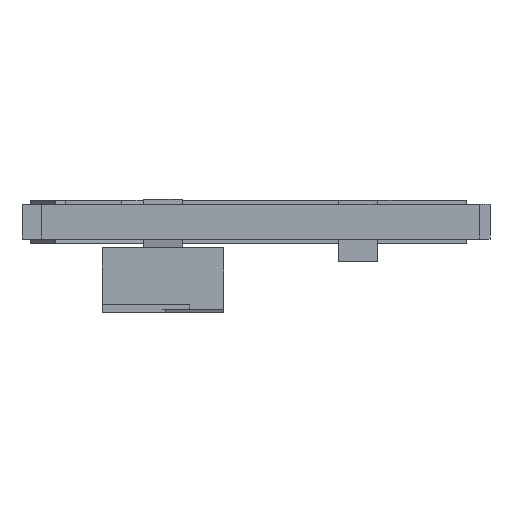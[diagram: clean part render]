
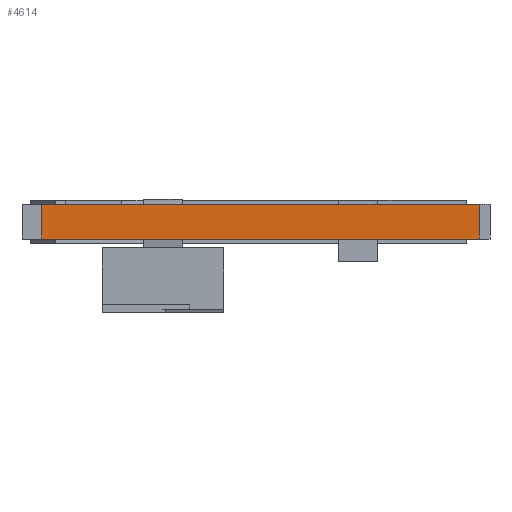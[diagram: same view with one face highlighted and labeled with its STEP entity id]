
A CAD part, front view. The second image highlights one B-rep face of the part: STEP entity #4614.
In plain terms, the highlighted planar face has unit normal (0, -1, 0).
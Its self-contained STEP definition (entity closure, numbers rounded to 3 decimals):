
#100 = PLANE('',#101);
#101 = AXIS2_PLACEMENT_3D('',#102,#103,#104);
#102 = CARTESIAN_POINT('',(-26.6,66.8,11.3));
#103 = DIRECTION('',(0.,0.,1.));
#104 = DIRECTION('',(1.,0.,0.));
#1587 = VERTEX_POINT('',#1588);
#1588 = CARTESIAN_POINT('',(-27.6,45.2,11.3));
#1602 = PLANE('',#1603);
#1603 = AXIS2_PLACEMENT_3D('',#1604,#1605,#1606);
#1604 = CARTESIAN_POINT('',(-27.6,45.2,11.3));
#1605 = DIRECTION('',(1.,0.,0.));
#1606 = DIRECTION('',(0.,0.,1.));
#1614 = EDGE_CURVE('',#1615,#1587,#1617,.T.);
#1615 = VERTEX_POINT('',#1616);
#1616 = CARTESIAN_POINT('',(-7.4,45.2,11.3));
#1617 = SURFACE_CURVE('',#1618,(#1622,#1629),.PCURVE_S1.);
#1618 = LINE('',#1619,#1620);
#1619 = CARTESIAN_POINT('',(-7.4,45.2,11.3));
#1620 = VECTOR('',#1621,1.);
#1621 = DIRECTION('',(-1.,0.,0.));
#1622 = PCURVE('',#100,#1623);
#1623 = DEFINITIONAL_REPRESENTATION('',(#1624),#1628);
#1624 = LINE('',#1625,#1626);
#1625 = CARTESIAN_POINT('',(19.2,-21.6));
#1626 = VECTOR('',#1627,1.);
#1627 = DIRECTION('',(-1.,0.));
#1628 = ( GEOMETRIC_REPRESENTATION_CONTEXT(2) 
PARAMETRIC_REPRESENTATION_CONTEXT() REPRESENTATION_CONTEXT('2D SPACE',''
  ) );
#1629 = PCURVE('',#1630,#1635);
#1630 = PLANE('',#1631);
#1631 = AXIS2_PLACEMENT_3D('',#1632,#1633,#1634);
#1632 = CARTESIAN_POINT('',(-27.6,45.2,11.3));
#1633 = DIRECTION('',(0.,1.,0.));
#1634 = DIRECTION('',(0.,0.,1.));
#1635 = DEFINITIONAL_REPRESENTATION('',(#1636),#1640);
#1636 = LINE('',#1637,#1638);
#1637 = CARTESIAN_POINT('',(0.,20.2));
#1638 = VECTOR('',#1639,1.);
#1639 = DIRECTION('',(0.,-1.));
#1640 = ( GEOMETRIC_REPRESENTATION_CONTEXT(2) 
PARAMETRIC_REPRESENTATION_CONTEXT() REPRESENTATION_CONTEXT('2D SPACE',''
  ) );
#1658 = PLANE('',#1659);
#1659 = AXIS2_PLACEMENT_3D('',#1660,#1661,#1662);
#1660 = CARTESIAN_POINT('',(-7.4,45.2,11.3));
#1661 = DIRECTION('',(1.,0.,0.));
#1662 = DIRECTION('',(0.,0.,1.));
#2570 = PLANE('',#2571);
#2571 = AXIS2_PLACEMENT_3D('',#2572,#2573,#2574);
#2572 = CARTESIAN_POINT('',(-27.6,45.2,12.9));
#2573 = DIRECTION('',(0.,0.,1.));
#2574 = DIRECTION('',(1.,0.,0.));
#4524 = VERTEX_POINT('',#4525);
#4525 = CARTESIAN_POINT('',(-27.6,45.2,12.9));
#4546 = EDGE_CURVE('',#1587,#4524,#4547,.T.);
#4547 = SURFACE_CURVE('',#4548,(#4552,#4559),.PCURVE_S1.);
#4548 = LINE('',#4549,#4550);
#4549 = CARTESIAN_POINT('',(-27.6,45.2,11.3));
#4550 = VECTOR('',#4551,1.);
#4551 = DIRECTION('',(0.,0.,1.));
#4552 = PCURVE('',#1602,#4553);
#4553 = DEFINITIONAL_REPRESENTATION('',(#4554),#4558);
#4554 = LINE('',#4555,#4556);
#4555 = CARTESIAN_POINT('',(0.,0.));
#4556 = VECTOR('',#4557,1.);
#4557 = DIRECTION('',(1.,0.));
#4558 = ( GEOMETRIC_REPRESENTATION_CONTEXT(2) 
PARAMETRIC_REPRESENTATION_CONTEXT() REPRESENTATION_CONTEXT('2D SPACE',''
  ) );
#4559 = PCURVE('',#1630,#4560);
#4560 = DEFINITIONAL_REPRESENTATION('',(#4561),#4565);
#4561 = LINE('',#4562,#4563);
#4562 = CARTESIAN_POINT('',(0.,0.));
#4563 = VECTOR('',#4564,1.);
#4564 = DIRECTION('',(1.,0.));
#4565 = ( GEOMETRIC_REPRESENTATION_CONTEXT(2) 
PARAMETRIC_REPRESENTATION_CONTEXT() REPRESENTATION_CONTEXT('2D SPACE',''
  ) );
#4614 = ADVANCED_FACE('',(#4615),#1630,.F.);
#4615 = FACE_BOUND('',#4616,.F.);
#4616 = EDGE_LOOP('',(#4617,#4618,#4641,#4662));
#4617 = ORIENTED_EDGE('',*,*,#4546,.T.);
#4618 = ORIENTED_EDGE('',*,*,#4619,.T.);
#4619 = EDGE_CURVE('',#4524,#4620,#4622,.T.);
#4620 = VERTEX_POINT('',#4621);
#4621 = CARTESIAN_POINT('',(-7.4,45.2,12.9));
#4622 = SURFACE_CURVE('',#4623,(#4627,#4634),.PCURVE_S1.);
#4623 = LINE('',#4624,#4625);
#4624 = CARTESIAN_POINT('',(-27.6,45.2,12.9));
#4625 = VECTOR('',#4626,1.);
#4626 = DIRECTION('',(1.,0.,0.));
#4627 = PCURVE('',#1630,#4628);
#4628 = DEFINITIONAL_REPRESENTATION('',(#4629),#4633);
#4629 = LINE('',#4630,#4631);
#4630 = CARTESIAN_POINT('',(1.6,0.));
#4631 = VECTOR('',#4632,1.);
#4632 = DIRECTION('',(0.,1.));
#4633 = ( GEOMETRIC_REPRESENTATION_CONTEXT(2) 
PARAMETRIC_REPRESENTATION_CONTEXT() REPRESENTATION_CONTEXT('2D SPACE',''
  ) );
#4634 = PCURVE('',#2570,#4635);
#4635 = DEFINITIONAL_REPRESENTATION('',(#4636),#4640);
#4636 = LINE('',#4637,#4638);
#4637 = CARTESIAN_POINT('',(0.,0.));
#4638 = VECTOR('',#4639,1.);
#4639 = DIRECTION('',(1.,0.));
#4640 = ( GEOMETRIC_REPRESENTATION_CONTEXT(2) 
PARAMETRIC_REPRESENTATION_CONTEXT() REPRESENTATION_CONTEXT('2D SPACE',''
  ) );
#4641 = ORIENTED_EDGE('',*,*,#4642,.F.);
#4642 = EDGE_CURVE('',#1615,#4620,#4643,.T.);
#4643 = SURFACE_CURVE('',#4644,(#4648,#4655),.PCURVE_S1.);
#4644 = LINE('',#4645,#4646);
#4645 = CARTESIAN_POINT('',(-7.4,45.2,11.3));
#4646 = VECTOR('',#4647,1.);
#4647 = DIRECTION('',(0.,0.,1.));
#4648 = PCURVE('',#1630,#4649);
#4649 = DEFINITIONAL_REPRESENTATION('',(#4650),#4654);
#4650 = LINE('',#4651,#4652);
#4651 = CARTESIAN_POINT('',(0.,20.2));
#4652 = VECTOR('',#4653,1.);
#4653 = DIRECTION('',(1.,0.));
#4654 = ( GEOMETRIC_REPRESENTATION_CONTEXT(2) 
PARAMETRIC_REPRESENTATION_CONTEXT() REPRESENTATION_CONTEXT('2D SPACE',''
  ) );
#4655 = PCURVE('',#1658,#4656);
#4656 = DEFINITIONAL_REPRESENTATION('',(#4657),#4661);
#4657 = LINE('',#4658,#4659);
#4658 = CARTESIAN_POINT('',(0.,0.));
#4659 = VECTOR('',#4660,1.);
#4660 = DIRECTION('',(1.,0.));
#4661 = ( GEOMETRIC_REPRESENTATION_CONTEXT(2) 
PARAMETRIC_REPRESENTATION_CONTEXT() REPRESENTATION_CONTEXT('2D SPACE',''
  ) );
#4662 = ORIENTED_EDGE('',*,*,#1614,.T.);
